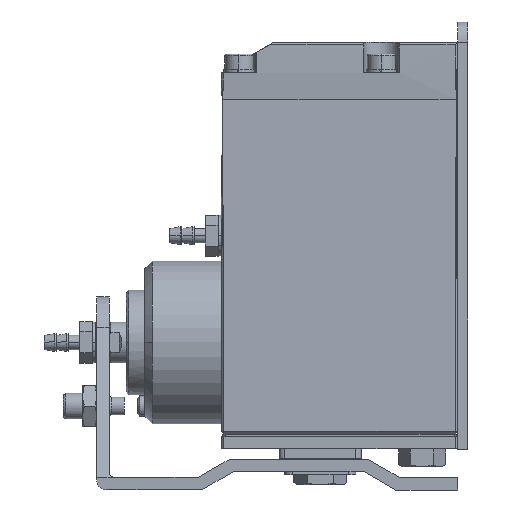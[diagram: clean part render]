
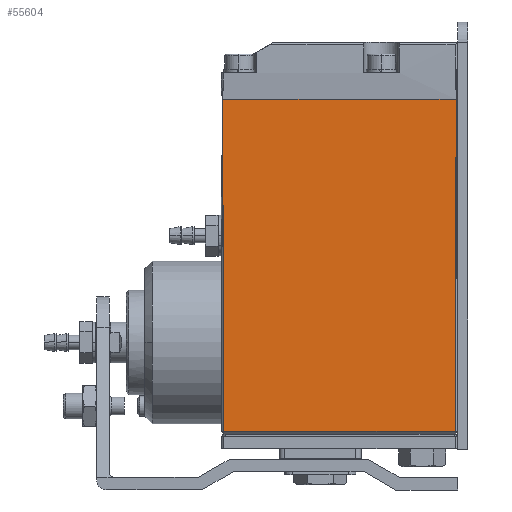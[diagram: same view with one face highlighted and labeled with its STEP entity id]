
A CAD part, left-side view. The second image highlights one B-rep face of the part: STEP entity #55604.
In plain terms, the highlighted planar face has unit normal (-1, 0, 0).
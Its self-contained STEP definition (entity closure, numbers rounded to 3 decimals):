
#22 = EDGE_CURVE ( 'NONE', #17658, #4572, #43809, .T. ) ;
#2936 = EDGE_CURVE ( 'NONE', #17658, #23640, #39515, .T. ) ;
#4572 = VERTEX_POINT ( 'NONE', #20720 ) ;
#5790 = EDGE_CURVE ( 'NONE', #31813, #23640, #7722, .T. ) ;
#6121 = EDGE_LOOP ( 'NONE', ( #31818, #53389, #37967, #31354 ) ) ;
#6176 = DIRECTION ( 'NONE',  ( -1., 0., 0. ) ) ;
#7722 = LINE ( 'NONE', #40868, #39737 ) ;
#15507 = VECTOR ( 'NONE', #43989, 1000. ) ;
#17658 = VERTEX_POINT ( 'NONE', #43204 ) ;
#20233 = FACE_OUTER_BOUND ( 'NONE', #6121, .T. ) ;
#20720 = CARTESIAN_POINT ( 'NONE',  ( 0.23, 0.299, 65.786 ) ) ;
#21936 = CARTESIAN_POINT ( 'NONE',  ( 0., 23.25, 0.5 ) ) ;
#22007 = DIRECTION ( 'NONE',  ( 0., 1., 0. ) ) ;
#22997 = AXIS2_PLACEMENT_3D ( 'NONE', #32288, #6176, #36651 ) ;
#23135 = PLANE ( 'NONE',  #22997 ) ;
#23640 = VERTEX_POINT ( 'NONE', #36931 ) ;
#26515 = CARTESIAN_POINT ( 'NONE',  ( 0., 23.25, 65.5 ) ) ;
#27125 = LINE ( 'NONE', #26515, #15507 ) ;
#27599 = DIRECTION ( 'NONE',  ( 0., 0., 1. ) ) ;
#28312 = CARTESIAN_POINT ( 'NONE',  ( 0., 0.5, 33. ) ) ;
#31354 = ORIENTED_EDGE ( 'NONE', *, *, #45792, .T. ) ;
#31813 = VERTEX_POINT ( 'NONE', #35652 ) ;
#31818 = ORIENTED_EDGE ( 'NONE', *, *, #5790, .T. ) ;
#32278 = VECTOR ( 'NONE', #27599, 1000. ) ;
#32288 = CARTESIAN_POINT ( 'NONE',  ( 0., -4.05, -6. ) ) ;
#35652 = CARTESIAN_POINT ( 'NONE',  ( 0.23, 46.201, 65.786 ) ) ;
#36651 = DIRECTION ( 'NONE',  ( 0., 0., 1. ) ) ;
#36931 = CARTESIAN_POINT ( 'NONE',  ( 0., 46., 0.5 ) ) ;
#37967 = ORIENTED_EDGE ( 'NONE', *, *, #22, .T. ) ;
#39515 = LINE ( 'NONE', #21936, #40866 ) ;
#39737 = VECTOR ( 'NONE', #41063, 1000. ) ;
#40866 = VECTOR ( 'NONE', #22007, 1000. ) ;
#40868 = CARTESIAN_POINT ( 'NONE',  ( 0., 46., 33. ) ) ;
#41063 = DIRECTION ( 'NONE',  ( 0., 0., -1. ) ) ;
#43204 = CARTESIAN_POINT ( 'NONE',  ( 0., 0.5, 0.5 ) ) ;
#43809 = LINE ( 'NONE', #28312, #32278 ) ;
#43989 = DIRECTION ( 'NONE',  ( 0., 1., 0. ) ) ;
#45792 = EDGE_CURVE ( 'NONE', #4572, #31813, #27125, .T. ) ;
#53389 = ORIENTED_EDGE ( 'NONE', *, *, #2936, .F. ) ;
#55604 = ADVANCED_FACE ( 'NONE', ( #20233 ), #23135, .T. ) ;
